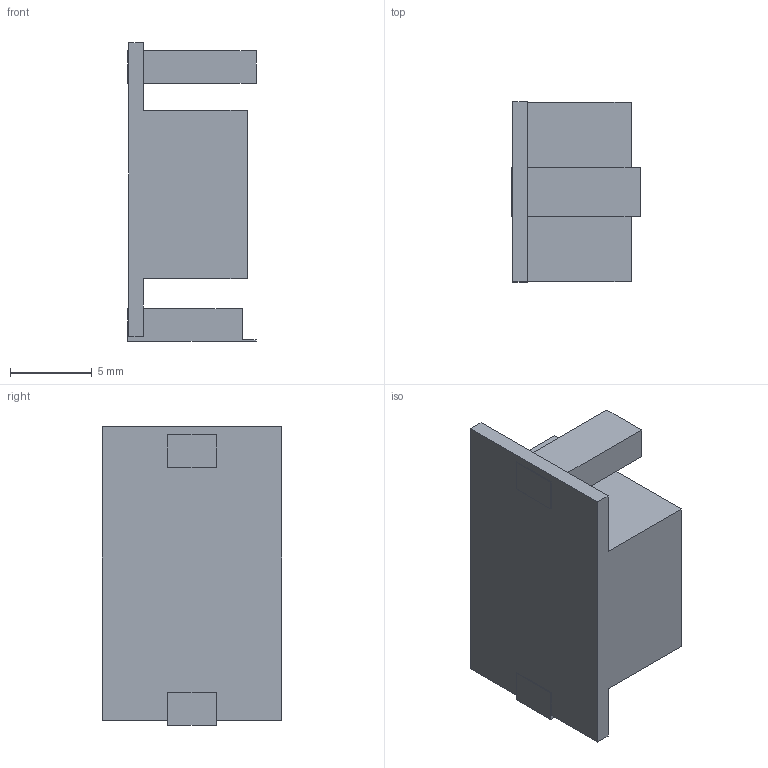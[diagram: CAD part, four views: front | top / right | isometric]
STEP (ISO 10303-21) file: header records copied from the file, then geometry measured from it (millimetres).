
FILE_DESCRIPTION(('Open CASCADE Model'),'2;1');
FILE_NAME('Open CASCADE Shape Model','2026-09-06T11:30:37',('Author'),( 'Open CASCADE'),'Open CASCADE STEP processor 7.7','Open CASCADE 7.7' ,'Unknown');
FILE_SCHEMA(('AUTOMOTIVE_DESIGN { 1 0 10303 214 1 1 1 1 }'));
Length unit declared in the file: millimetre
Products named in the file (1): Open CASCADE STEP translator 7.7 21
Bounding box: 7.85 x 11 x 18.3 mm (x, y, z)
Volume: 400 mm3; surface area: 979.6 mm2
Topology: 1 solids, 1 shells, 36 faces, 96 edges, 64 vertices
Faces by surface type: plane 36
Entity records: 2358 total; most frequent: CARTESIAN_POINT 389, DIRECTION 362, LINE 288, VECTOR 288, ORIENTED_EDGE 192, PCURVE 192, DEFINITIONAL_REPRESENTATION 192, EDGE_CURVE 96
